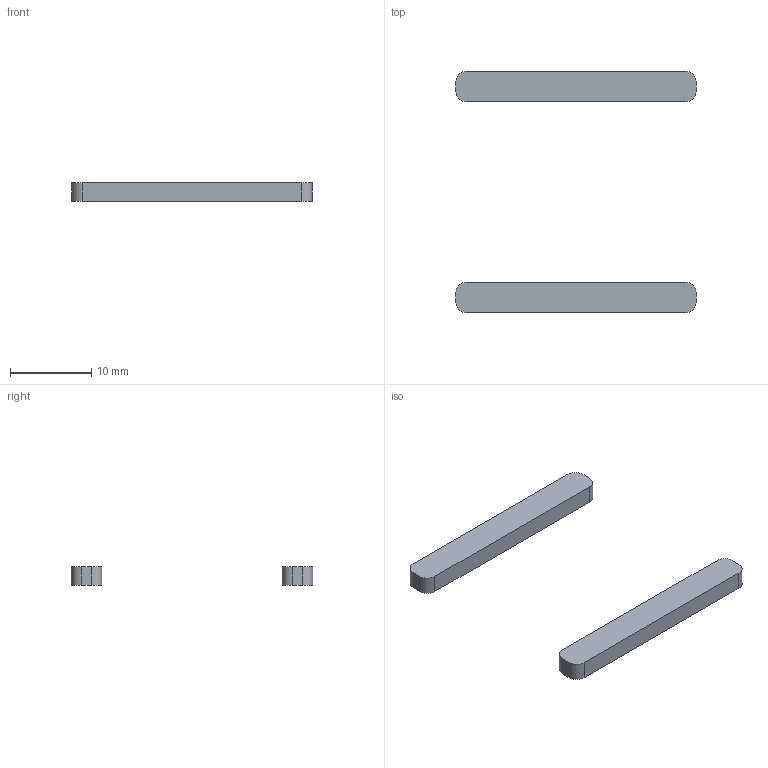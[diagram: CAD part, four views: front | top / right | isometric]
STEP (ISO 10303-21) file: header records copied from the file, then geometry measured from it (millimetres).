
FILE_DESCRIPTION(('Open CASCADE Model'),'2;1');
FILE_NAME('Open CASCADE Shape Model','2026-09-15T13:51:01',('Author'),( 'Open CASCADE'),'Open CASCADE STEP processor 7.7','Open CASCADE 7.7' ,'Unknown');
FILE_SCHEMA(('AUTOMOTIVE_DESIGN { 1 0 10303 214 1 1 1 1 }'));
Length unit declared in the file: millimetre
Products named in the file (3): ASSEMBLY; SOLID
Assembly tree (2 placements, depth 2):
  ASSEMBLY
    SOLID
    SOLID
Bounding box: 29.6 x 29.8 x 2.3 mm (x, y, z)
Volume: 510.8 mm3; surface area: 741.1 mm2
Topology: 2 solids, 2 shells, 20 faces, 48 edges, 32 vertices
Faces by surface type: plane 12, cylinder 8
Entity records: 1280 total; most frequent: CARTESIAN_POINT 247, DIRECTION 198, LINE 112, VECTOR 112, ORIENTED_EDGE 96, PCURVE 96, DEFINITIONAL_REPRESENTATION 96, EDGE_CURVE 48
